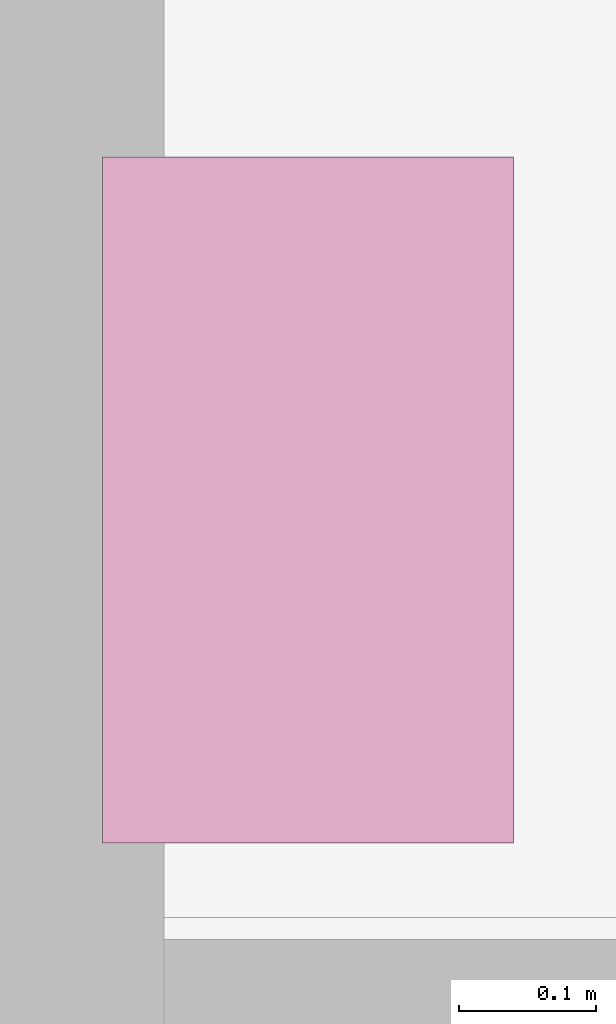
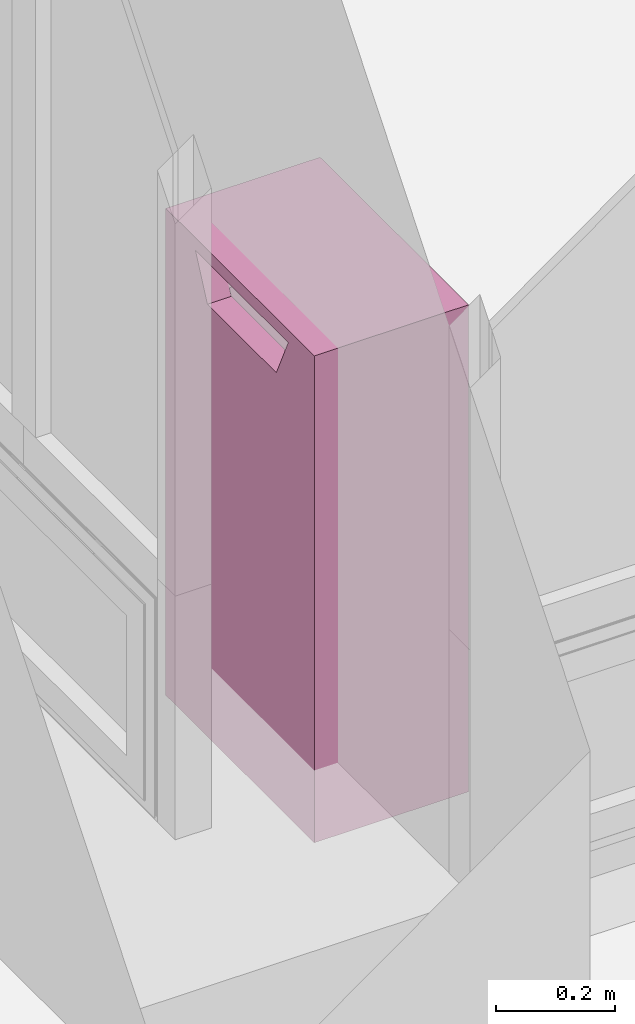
# One storey, part 87 of 88: 1 furnishing.
"""IFC2X3 building model written with IfcOpenShell, lengths in millimetres."""

from ifc_helpers import new_model, entity, si_unit, converted_unit, derived_unit, direction, frame, origin, place, context, subcontext, project, spatial, faceted_brep, source, transform, mapped, material, type_object, type_shapes, element, save


model = new_model("IFC2X3")

# Units and contexts
model_context = context("Model", 3, precision=0.01, world=origin(), true_north=direction((6.123031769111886e-17, 1.0)))
body_context = subcontext(model_context, "Body", "Model", "MODEL_VIEW")
ifc_project = project(units=[si_unit("LENGTHUNIT", "METRE", prefix="MILLI"), si_unit("AREAUNIT", "SQUARE_METRE"), si_unit("VOLUMEUNIT", "CUBIC_METRE"), converted_unit("PLANEANGLEUNIT", "DEGREE", entity("IfcPlaneAngleMeasure", 0.017453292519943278), si_unit("PLANEANGLEUNIT", "RADIAN"), dimensions=[0, 0, 0, 0, 0, 0, 0]), si_unit("MASSUNIT", "GRAM", prefix="KILO"), derived_unit("MASSDENSITYUNIT", [(si_unit("MASSUNIT", "GRAM", prefix="KILO"), 1), (si_unit("LENGTHUNIT", "METRE"), -3)]), derived_unit("IONCONCENTRATIONUNIT", [(si_unit("MASSUNIT", "GRAM", prefix="KILO"), 1), (si_unit("LENGTHUNIT", "METRE"), -3)]), derived_unit("MOMENTOFINERTIAUNIT", [(si_unit("LENGTHUNIT", "METRE"), 4)]), si_unit("TIMEUNIT", "SECOND"), si_unit("FREQUENCYUNIT", "HERTZ"), si_unit("THERMODYNAMICTEMPERATUREUNIT", "DEGREE_CELSIUS"), derived_unit("THERMALTRANSMITTANCEUNIT", [(si_unit("MASSUNIT", "GRAM", prefix="KILO"), 1), (si_unit("THERMODYNAMICTEMPERATUREUNIT", "KELVIN"), -1), (si_unit("TIMEUNIT", "SECOND"), -3)]), derived_unit("THERMALCONDUCTANCEUNIT", [(si_unit("MASSUNIT", "GRAM", prefix="KILO"), 1), (si_unit("THERMODYNAMICTEMPERATUREUNIT", "KELVIN"), -1), (si_unit("TIMEUNIT", "SECOND"), -3), (si_unit("LENGTHUNIT", "METRE"), 1)]), derived_unit("VOLUMETRICFLOWRATEUNIT", [(si_unit("LENGTHUNIT", "METRE", prefix="DECI"), 3), (si_unit("TIMEUNIT", "SECOND"), -1)]), derived_unit("MASSFLOWRATEUNIT", [(si_unit("MASSUNIT", "GRAM", prefix="KILO"), 1), (si_unit("TIMEUNIT", "SECOND"), -1)]), derived_unit("ROTATIONALFREQUENCYUNIT", [(si_unit("TIMEUNIT", "SECOND"), -1)]), si_unit("ELECTRICCURRENTUNIT", "AMPERE"), si_unit("ELECTRICVOLTAGEUNIT", "VOLT"), si_unit("POWERUNIT", "WATT"), si_unit("FORCEUNIT", "NEWTON", prefix="KILO"), si_unit("ILLUMINANCEUNIT", "LUX"), si_unit("LUMINOUSFLUXUNIT", "LUMEN"), si_unit("LUMINOUSINTENSITYUNIT", "CANDELA"), si_unit("ENERGYUNIT", "JOULE"), derived_unit("USERDEFINED", [(si_unit("MASSUNIT", "GRAM", prefix="KILO"), -1), (si_unit("LENGTHUNIT", "METRE"), -2), (si_unit("TIMEUNIT", "SECOND"), 3), (si_unit("LUMINOUSFLUXUNIT", "LUMEN"), 1)]), derived_unit("USERDEFINED", [(si_unit("MASSUNIT", "GRAM", prefix="KILO"), 1), (si_unit("TIMEUNIT", "SECOND"), -3), (si_unit("LENGTHUNIT", "METRE"), 3), (si_unit("ELECTRICCURRENTUNIT", "AMPERE"), -2)]), derived_unit("SOUNDPOWERUNIT", [(si_unit("MASSUNIT", "GRAM", prefix="KILO"), 1), (si_unit("TIMEUNIT", "SECOND"), -3), (si_unit("LENGTHUNIT", "METRE"), 2)]), derived_unit("SOUNDPRESSUREUNIT", [(si_unit("MASSUNIT", "GRAM", prefix="KILO"), 1), (si_unit("LENGTHUNIT", "METRE"), -1), (si_unit("TIMEUNIT", "SECOND"), -2)]), derived_unit("LINEARVELOCITYUNIT", [(si_unit("LENGTHUNIT", "METRE"), 1), (si_unit("TIMEUNIT", "SECOND"), -1)]), si_unit("PRESSUREUNIT", "PASCAL"), derived_unit("USERDEFINED", [(si_unit("MASSUNIT", "GRAM", prefix="KILO"), 1), (si_unit("LENGTHUNIT", "METRE"), -2), (si_unit("TIMEUNIT", "SECOND"), -2)]), derived_unit("LINEARFORCEUNIT", [(si_unit("MASSUNIT", "GRAM", prefix="KILO"), 1), (si_unit("TIMEUNIT", "SECOND"), -2)]), derived_unit("PLANARFORCEUNIT", [(si_unit("MASSUNIT", "GRAM", prefix="KILO"), 1), (si_unit("LENGTHUNIT", "METRE"), -1), (si_unit("TIMEUNIT", "SECOND"), -2)]), derived_unit("SPECIFICHEATCAPACITYUNIT", [(si_unit("THERMODYNAMICTEMPERATUREUNIT", "KELVIN"), -1), (si_unit("LENGTHUNIT", "METRE"), 2), (si_unit("TIMEUNIT", "SECOND"), -2)]), derived_unit("HEATFLUXDENSITYUNIT", [(si_unit("MASSUNIT", "GRAM", prefix="KILO"), 1), (si_unit("TIMEUNIT", "SECOND"), -3)]), derived_unit("HEATINGVALUEUNIT", [(si_unit("LENGTHUNIT", "METRE"), 2), (si_unit("TIMEUNIT", "SECOND"), -2)]), derived_unit("VAPORPERMEABILITYUNIT", [(si_unit("LENGTHUNIT", "METRE"), -1), (si_unit("TIMEUNIT", "SECOND"), 1)]), derived_unit("DYNAMICVISCOSITYUNIT", [(si_unit("MASSUNIT", "GRAM", prefix="KILO"), 1), (si_unit("TIMEUNIT", "SECOND"), -1), (si_unit("LENGTHUNIT", "METRE"), -1)]), derived_unit("THERMALEXPANSIONCOEFFICIENTUNIT", [(si_unit("THERMODYNAMICTEMPERATUREUNIT", "KELVIN"), -1)]), derived_unit("MODULUSOFELASTICITYUNIT", [(si_unit("MASSUNIT", "GRAM", prefix="KILO"), 1), (si_unit("LENGTHUNIT", "METRE"), -1), (si_unit("TIMEUNIT", "SECOND"), -2)]), derived_unit("ISOTHERMALMOISTURECAPACITYUNIT", [(si_unit("MASSUNIT", "GRAM", prefix="KILO"), -1), (si_unit("LENGTHUNIT", "METRE"), 3)]), derived_unit("MOISTUREDIFFUSIVITYUNIT", [(si_unit("TIMEUNIT", "SECOND"), -1), (si_unit("LENGTHUNIT", "METRE"), 2)]), derived_unit("MASSPERLENGTHUNIT", [(si_unit("MASSUNIT", "GRAM", prefix="KILO"), 1), (si_unit("LENGTHUNIT", "METRE"), -1)]), derived_unit("THERMALRESISTANCEUNIT", [(si_unit("MASSUNIT", "GRAM", prefix="KILO"), -1), (si_unit("TIMEUNIT", "SECOND"), 3), (si_unit("THERMODYNAMICTEMPERATUREUNIT", "KELVIN"), 1)]), derived_unit("ACCELERATIONUNIT", [(si_unit("LENGTHUNIT", "METRE"), 1), (si_unit("TIMEUNIT", "SECOND"), -2)]), derived_unit("ANGULARVELOCITYUNIT", [(si_unit("TIMEUNIT", "SECOND"), -1), (si_unit("PLANEANGLEUNIT", "RADIAN"), 1)]), derived_unit("LINEARSTIFFNESSUNIT", [(si_unit("MASSUNIT", "GRAM", prefix="KILO"), 1), (si_unit("TIMEUNIT", "SECOND"), -2)]), derived_unit("WARPINGCONSTANTUNIT", [(si_unit("LENGTHUNIT", "METRE"), 6)]), derived_unit("LINEARMOMENTUNIT", [(si_unit("MASSUNIT", "GRAM", prefix="KILO"), 1), (si_unit("LENGTHUNIT", "METRE"), 1), (si_unit("TIMEUNIT", "SECOND"), -2)]), derived_unit("TORQUEUNIT", [(si_unit("MASSUNIT", "GRAM", prefix="KILO"), 1), (si_unit("LENGTHUNIT", "METRE"), 2), (si_unit("TIMEUNIT", "SECOND"), -2)])], contexts=[model_context])

# Site, building, storey
site_placement = place(None, origin())
site = spatial("IfcSite", under=ifc_project, at=site_placement, Name="Default", CompositionType="ELEMENT")
building_placement = place(site_placement, origin())
building = spatial("IfcBuilding", under=site, at=building_placement, Name="Eesti Rahvusraamatukogu hoone renoveerimise projekteerimistööd", CompositionType="ELEMENT")
storey_placement = place(building_placement, origin())
storey = spatial("IfcBuildingStorey", under=building, at=storey_placement, Name="1. korrus", CompositionType="ELEMENT", Elevation=0.0)

# Furnishing
ifc_material = material(Name="<Unnamed>")
furniture_type = type_object("IfcFurnitureType", Name="MA_Hepta prügikast:MA_Hepta prügikast", AssemblyPlace="NOTDEFINED", material=ifc_material)
shared_shape = source(origin(), body_context, "Body", "Brep", [
    faceted_brep([(500.0, 0.0, 1000.0), (500.0, 300.0, 1000.0), (0.0, 300.0, 1000.0), (0.0, 0.0, 1000.0), (500.0, 0.0, 0.0), (0.0, 0.0, 0.0), (0.0, 300.0, 0.0), (500.0, 300.0, 0.0), (454.6946454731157, 253.49469263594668, 0.0), (54.69464547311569, 253.49469263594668, 0.0), (54.69464547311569, 33.49469263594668, 0.0), (454.6946454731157, 33.49469263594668, 0.0), (400.0066886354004, 300.0, 974.2442508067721), (87.55993279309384, 300.0, 974.2442508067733), (127.77795428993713, 300.0, 887.9964253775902), (359.78866713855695, 300.0, 887.9964253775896), (87.55993279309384, 0.0, 974.2442508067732), (400.00668863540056, 0.0, 974.2442508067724), (359.78866713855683, 0.0, 887.9964253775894), (127.77795428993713, 0.0, 887.9964253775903), (127.7779542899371, 33.49469263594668, 887.9964253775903), (121.36939373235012, 33.49469263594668, 901.7396278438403), (121.36939373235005, 253.49469263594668, 901.7396278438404), (127.77795428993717, 253.49469263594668, 887.9964253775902), (359.78866713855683, 33.49469263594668, 887.9964253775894), (359.78866713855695, 253.49469263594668, 887.9964253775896), (366.19722769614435, 253.49469263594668, 901.7396278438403), (366.1972276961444, 33.49469263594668, 901.7396278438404), (454.6946454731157, 253.49469263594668, 901.7396278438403), (454.6946454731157, 33.49469263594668, 901.7396278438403), (54.69464547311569, 253.49469263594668, 901.7396278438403), (54.69464547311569, 33.49469263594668, 901.7396278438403)], [[[0, 1, 2, 3]], [[4, 5, 6, 7], [8, 9, 10, 11]], [[1, 0, 4, 7]], [[2, 1, 7, 6], [12, 13, 14, 15]], [[3, 2, 6, 5]], [[0, 3, 5, 4], [16, 17, 18, 19]], [[12, 17, 16, 13]], [[13, 16, 19, 20, 21, 22, 23, 14]], [[19, 18, 24, 20]], [[17, 12, 15, 25, 26, 27, 24, 18]], [[28, 29, 27, 26]], [[30, 9, 8, 28, 26, 25, 23, 22]], [[30, 31, 10, 9]], [[10, 31, 21, 20, 24, 27, 29, 11]], [[29, 28, 8, 11]], [[31, 30, 22, 21]], [[15, 14, 23, 25]]]),
])
type_shapes(furniture_type, [shared_shape])
furnishing_placement = place(storey_placement, frame((-42335.0, 850.3762798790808, -150.0), z_axis=(0.0, 0.0, 1.0), x_axis=(0.0, 1.0, 0.0)))
element("IfcFurnishingElement", 1, at=furnishing_placement, inside=storey, type_object=furniture_type, material=ifc_material, Name="MA_Hepta prügikast:MA_Hepta prügikast", ObjectType="MA_Hepta prügikast:MA_Hepta prügikast", context=body_context, shape_type="MappedRepresentation", body=[
    mapped(shared_shape, transform((0.0, 0.0, 0.0), scale=1.0)),
])

save(model, "model.ifc")
